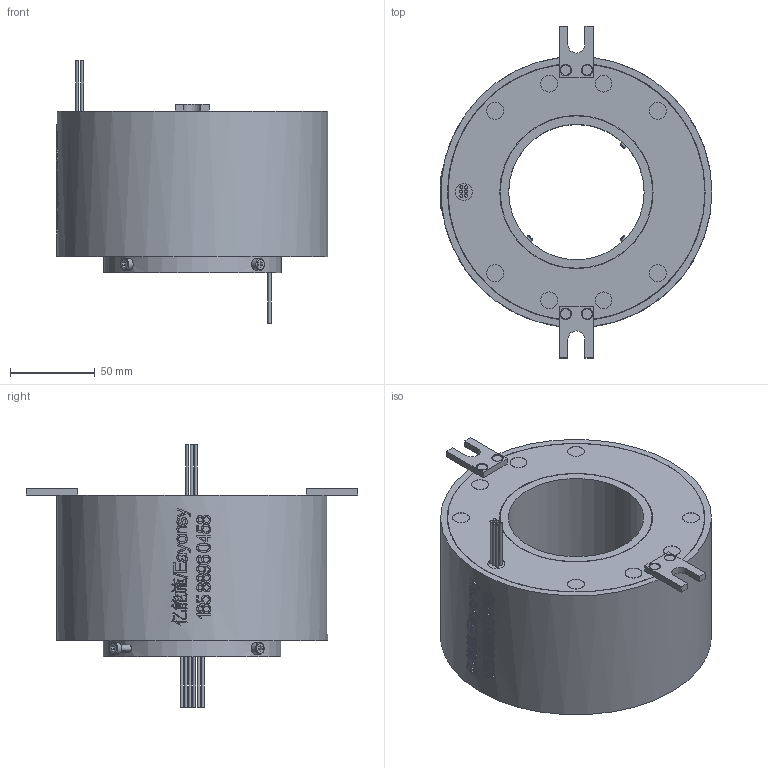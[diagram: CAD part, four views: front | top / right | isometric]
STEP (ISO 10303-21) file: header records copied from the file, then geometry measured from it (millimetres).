
FILE_DESCRIPTION(/* description */ (''),/* implementation_level */ '2;1');
FILE_NAME(/* name */ 'YDF80158-0610.stp',/* time_stamp */ '2025-09-12T11:18:36+08:00',/* author */ (''),/* organization */ (''),/* preprocessor_version */ 'ST-DEVELOPER v16.7',/* originating_system */ 'SIEMENS PLM Software NX 12.0',/* authorisation */ '');
FILE_SCHEMA (('AUTOMOTIVE_DESIGN { 1 0 10303 214 3 1 1 1 }'));
Length unit declared in the file: millimetre
Products named in the file (1): Admi2290F644g9tp
Bounding box: 160.5 x 196 x 155.1 mm (x, y, z)
Volume: 1336402.1 mm3; surface area: 108577.3 mm2
Topology: 1 solids, 5 shells, 912 faces, 2416 edges, 1606 vertices
Faces by surface type: extrusion 452, plane 334, cylinder 77, bspline 33, cone 12, torus 4
Full cylindrical faces by diameter (mm): 1.8 x12, 3 x4, 3.4 x1, 3.5 x4, 4 x7, 6 x4, 7 x4, 10 x9, 80 x1, 90 x1, 90.5 x1, 105 x1, 105.5 x1, 151.8 x2, 152 x2, 160 x1
Entity records: 35941 total; most frequent: CARTESIAN_POINT 16941, ORIENTED_EDGE 4648, EDGE_CURVE 2324, B_SPLINE_CURVE_WITH_KNOTS 2203, DIRECTION 2168, VERTEX_POINT 1585, EDGE_LOOP 1089, ADVANCED_FACE 912
